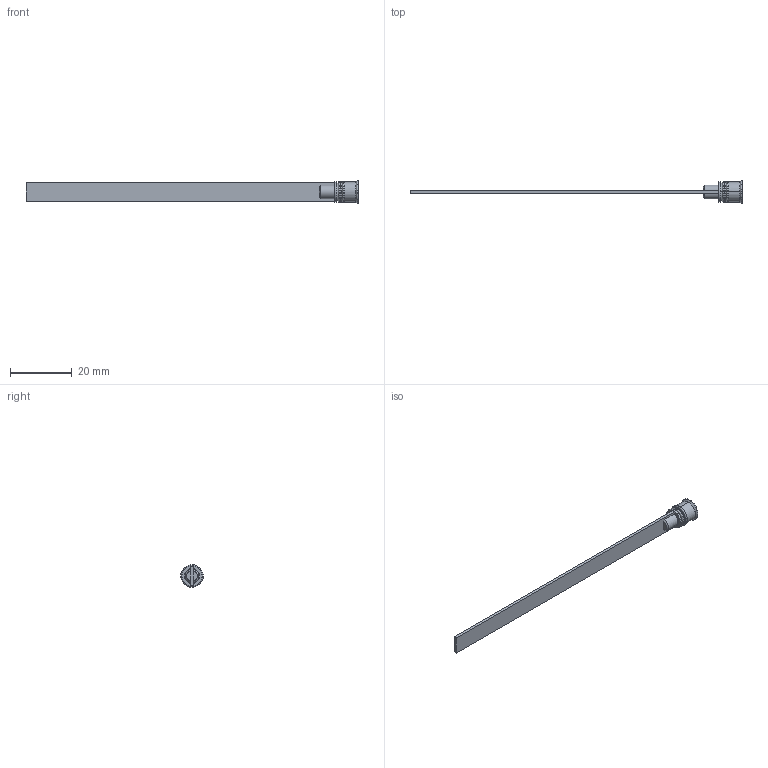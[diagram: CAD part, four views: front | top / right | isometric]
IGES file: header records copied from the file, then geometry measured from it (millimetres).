
Start section: START RECORD GO HERE.
Global section: file name: RL-6x100.igs; native system: DASSAULT SYSTEMES CATIA V5 R20 - www.3ds.com; preprocessor: CATIA Version 5 Release 20 ; author: Utente; organization: NB04-ASUS; date: 20210303.200328; units: millimetre
Bounding box: 107.5 x 7.4 x 7.4 mm (x, y, z)
Surface area: 1820.3 mm2 (no closed solid volume)
Topology: 0 solids, 0 shells, 63 faces, 352 edges, 352 vertices
Faces by surface type: revolution 36, plane 27
